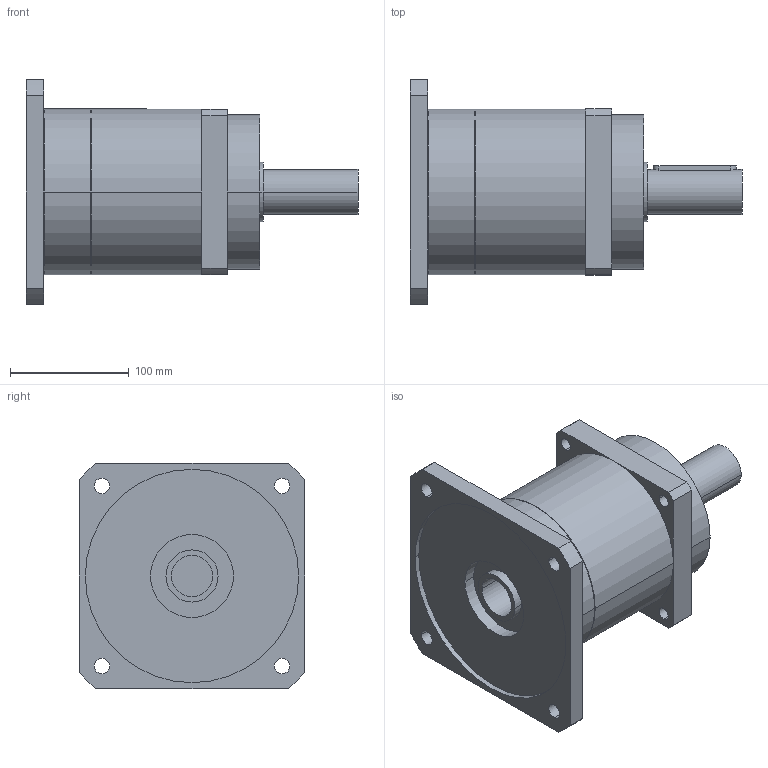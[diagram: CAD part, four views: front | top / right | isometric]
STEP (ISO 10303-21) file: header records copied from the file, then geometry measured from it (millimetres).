
FILE_DESCRIPTION(('CoCreate Modeling STEP Export'),'2;1');
FILE_NAME('GPR150_ig-3-4-5-7_38_B5_35_P06.stp','2014-08-19T16:43:13',(''),(''),'CoCreate Modeling STEP processor for AP214 (Solid Model)','CoCreate Modeling 16.00C 25-Feb-2009 (C) Parametric Technology GmbH','');
FILE_SCHEMA(('AUTOMOTIVE_DESIGN { 1 0 10303 214 1 1 1 1 }'));
Length unit declared in the file: millimetre
Products named in the file (2): GPR150_ig-3-4-5-7_38_B5_35_P06
Assembly tree (1 placements, depth 2):
  GPR150_ig-3-4-5-7_38_B5_35_P06
    GPR150_ig-3-4-5-7_38_B5_35_P06
Bounding box: 280 x 190 x 190 mm (x, y, z)
Volume: 3236008.3 mm3; surface area: 201676.5 mm2
Topology: 1 solids, 1 shells, 78 faces, 214 edges, 146 vertices
Faces by surface type: cylinder 46, plane 26, cone 6
Entity records: 2260 total; most frequent: ORIENTED_EDGE 424, CARTESIAN_POINT 421, DIRECTION 320, EDGE_CURVE 212, VERTEX_POINT 146, AXIS2_PLACEMENT_3D 117, EDGE_LOOP 104, VECTOR 86
